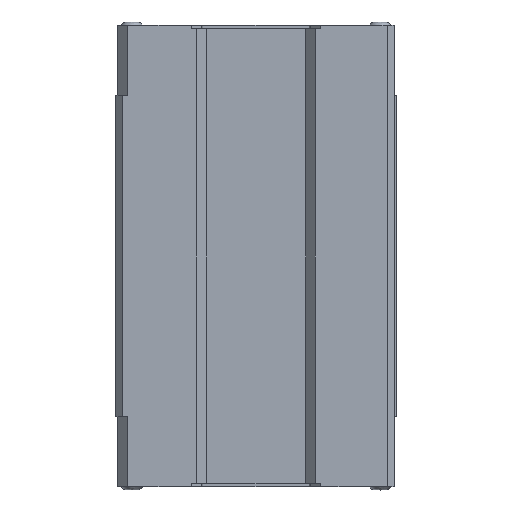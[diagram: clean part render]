
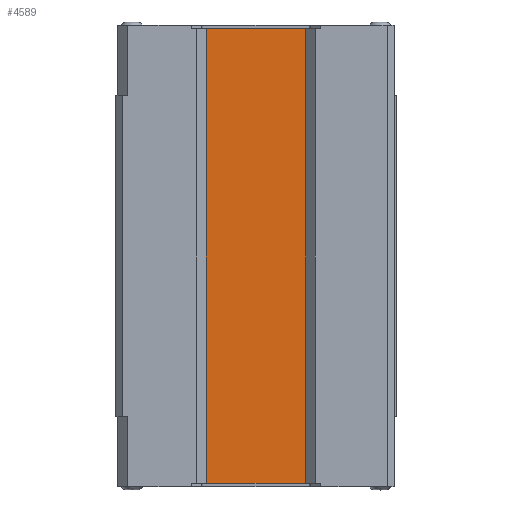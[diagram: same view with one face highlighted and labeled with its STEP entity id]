
A CAD part, front view. The second image highlights one B-rep face of the part: STEP entity #4589.
In plain terms, the highlighted planar face has unit normal (0, -1, 0).
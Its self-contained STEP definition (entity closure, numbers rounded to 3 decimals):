
#22 = DIRECTION ( 'NONE',  ( 0., 0., 1. ) ) ;
#297 = DIRECTION ( 'NONE',  ( 0., -1., 0. ) ) ;
#763 = VERTEX_POINT ( 'NONE', #1639 ) ;
#1530 = LINE ( 'NONE', #2786, #1550 ) ;
#1539 = VECTOR ( 'NONE', #22, 1000. ) ;
#1550 = VECTOR ( 'NONE', #1600, 1000. ) ;
#1575 = LINE ( 'NONE', #3172, #1539 ) ;
#1600 = DIRECTION ( 'NONE',  ( 0., 0., -1. ) ) ;
#1624 = CARTESIAN_POINT ( 'NONE',  ( -8.308, -0.07, -10. ) ) ;
#1639 = CARTESIAN_POINT ( 'NONE',  ( -8.308, -0.07, 58.1 ) ) ;
#1809 = FACE_OUTER_BOUND ( 'NONE', #2476, .T. ) ;
#1975 = AXIS2_PLACEMENT_3D ( 'NONE', #9339, #297, #4206 ) ;
#2376 = ORIENTED_EDGE ( 'NONE', *, *, #3787, .F. ) ;
#2476 = EDGE_LOOP ( 'NONE', ( #2376, #7775, #9854, #6342 ) ) ;
#2648 = VECTOR ( 'NONE', #9753, 1000. ) ;
#2779 = LINE ( 'NONE', #8971, #2648 ) ;
#2786 = CARTESIAN_POINT ( 'NONE',  ( -8.308, -0.07, -10. ) ) ;
#3172 = CARTESIAN_POINT ( 'NONE',  ( 8.308, -0.07, 58.1 ) ) ;
#3449 = VERTEX_POINT ( 'NONE', #1624 ) ;
#3493 = CARTESIAN_POINT ( 'NONE',  ( 8.308, -0.07, -10. ) ) ;
#3787 = EDGE_CURVE ( 'NONE', #763, #3927, #10380, .T. ) ;
#3927 = VERTEX_POINT ( 'NONE', #8553 ) ;
#4206 = DIRECTION ( 'NONE',  ( 0., 0., -1. ) ) ;
#4507 = EDGE_CURVE ( 'NONE', #763, #3449, #1530, .T. ) ;
#4521 = EDGE_CURVE ( 'NONE', #10307, #3927, #1575, .T. ) ;
#4589 = ADVANCED_FACE ( 'NONE', ( #1809 ), #10532, .T. ) ;
#5024 = DIRECTION ( 'NONE',  ( 1., 0., 0. ) ) ;
#6342 = ORIENTED_EDGE ( 'NONE', *, *, #4521, .T. ) ;
#7775 = ORIENTED_EDGE ( 'NONE', *, *, #4507, .T. ) ;
#7834 = EDGE_CURVE ( 'NONE', #10307, #3449, #2779, .T. ) ;
#8553 = CARTESIAN_POINT ( 'NONE',  ( 8.308, -0.07, 58.1 ) ) ;
#8971 = CARTESIAN_POINT ( 'NONE',  ( 8.39, -0.07, -10. ) ) ;
#9339 = CARTESIAN_POINT ( 'NONE',  ( 8.305, -0.07, -10. ) ) ;
#9668 = CARTESIAN_POINT ( 'NONE',  ( -8.39, -0.07, 58.1 ) ) ;
#9753 = DIRECTION ( 'NONE',  ( -1., 0., 0. ) ) ;
#9854 = ORIENTED_EDGE ( 'NONE', *, *, #7834, .F. ) ;
#10307 = VERTEX_POINT ( 'NONE', #3493 ) ;
#10380 = LINE ( 'NONE', #9668, #10388 ) ;
#10388 = VECTOR ( 'NONE', #5024, 1000. ) ;
#10532 = PLANE ( 'NONE',  #1975 ) ;
